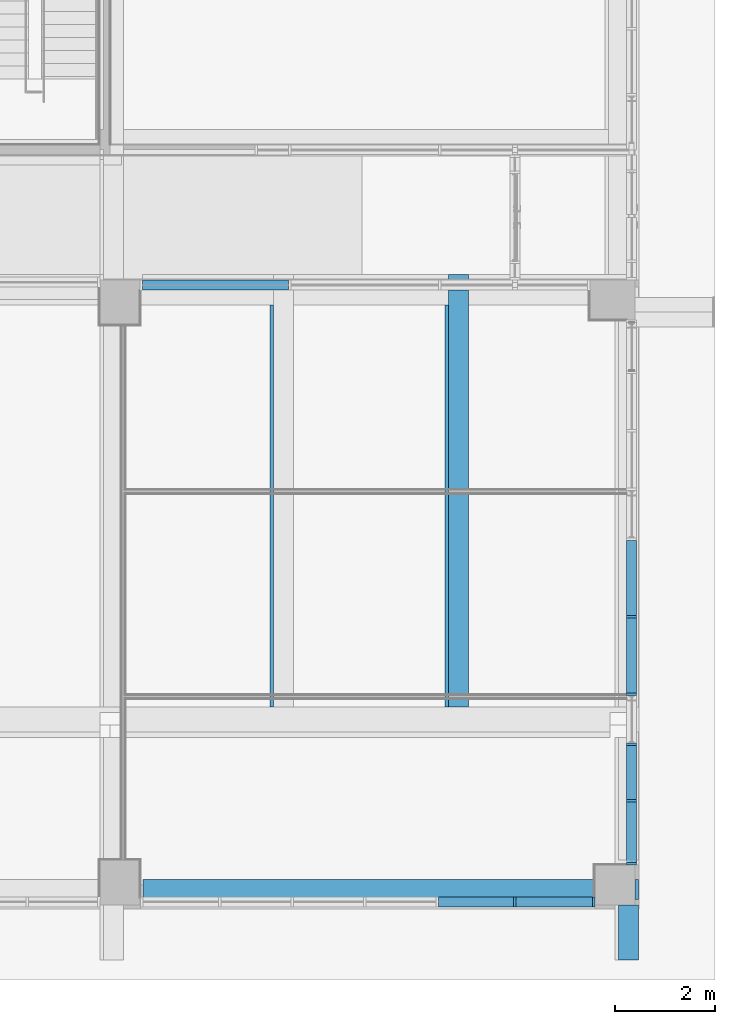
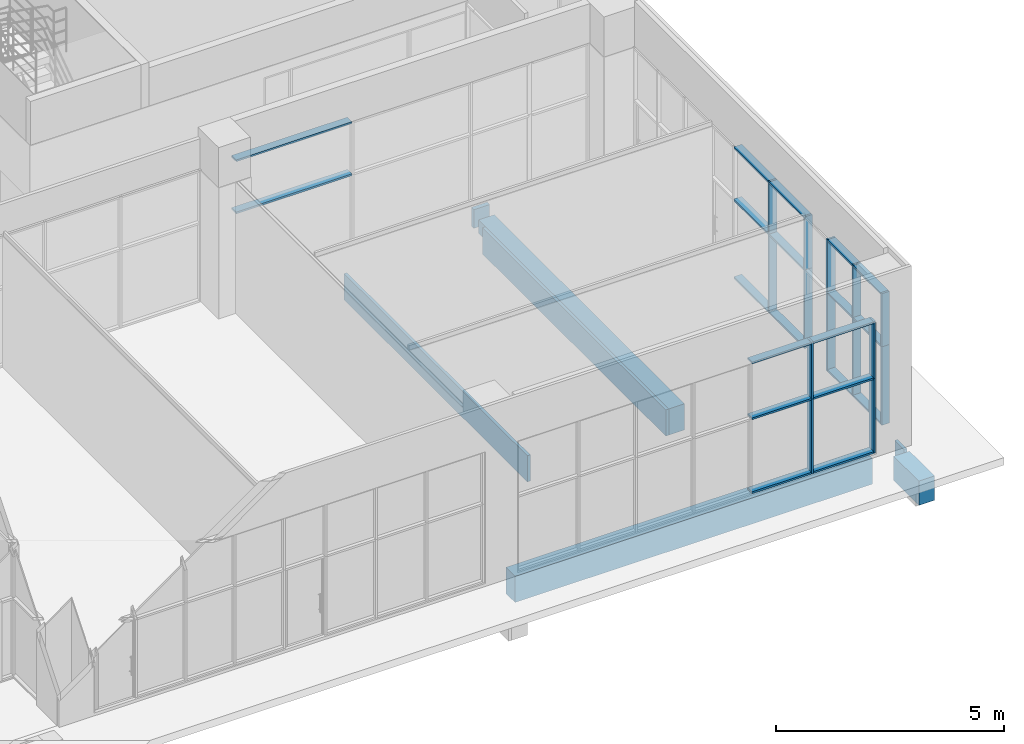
# One storey, part 11 of 100: 34 members, 5 beams, 3 elements without a shape of their own.
"""IFC2X3 building model written with IfcOpenShell, lengths in millimetres."""

from ifc_helpers import new_model, entity, si_unit, converted_unit, derived_unit, direction, frame, frame_2d, origin, origin_2d_with_axis, place, context, subcontext, project, spatial, polyline, rectangle, outline, extrude, source, transform, mapped, material, material_list, type_object, type_shapes, element, aggregate, save


model = new_model("IFC2X3")

# Units and contexts
model_context = context("Model", 3, precision=0.01, world=origin(), true_north=direction((6.123031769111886e-17, 1.0)))
body_context = subcontext(model_context, "Body", "Model", "MODEL_VIEW")
ifc_project = project(units=[si_unit("LENGTHUNIT", "METRE", prefix="MILLI"), si_unit("AREAUNIT", "SQUARE_METRE"), si_unit("VOLUMEUNIT", "CUBIC_METRE"), converted_unit("PLANEANGLEUNIT", "DEGREE", entity("IfcRatioMeasure", 0.017453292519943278), si_unit("PLANEANGLEUNIT", "RADIAN"), dimensions=[0, 0, 0, 0, 0, 0, 0]), si_unit("MASSUNIT", "GRAM", prefix="KILO"), derived_unit("MASSDENSITYUNIT", [(si_unit("MASSUNIT", "GRAM", prefix="KILO"), 1), (si_unit("LENGTHUNIT", "METRE"), -3)]), derived_unit("MOMENTOFINERTIAUNIT", [(si_unit("LENGTHUNIT", "METRE"), 4)]), si_unit("TIMEUNIT", "SECOND"), si_unit("FREQUENCYUNIT", "HERTZ"), si_unit("THERMODYNAMICTEMPERATUREUNIT", "DEGREE_CELSIUS"), derived_unit("THERMALTRANSMITTANCEUNIT", [(si_unit("MASSUNIT", "GRAM", prefix="KILO"), 1), (si_unit("THERMODYNAMICTEMPERATUREUNIT", "KELVIN"), -1), (si_unit("TIMEUNIT", "SECOND"), -3)]), derived_unit("VOLUMETRICFLOWRATEUNIT", [(si_unit("LENGTHUNIT", "METRE"), 3), (si_unit("TIMEUNIT", "SECOND"), -1)]), derived_unit("MASSFLOWRATEUNIT", [(si_unit("MASSUNIT", "GRAM", prefix="KILO"), 1), (si_unit("TIMEUNIT", "SECOND"), -1)]), derived_unit("ROTATIONALFREQUENCYUNIT", [(si_unit("TIMEUNIT", "SECOND"), -1)]), si_unit("ELECTRICCURRENTUNIT", "AMPERE"), si_unit("ELECTRICVOLTAGEUNIT", "VOLT"), si_unit("POWERUNIT", "WATT"), si_unit("FORCEUNIT", "NEWTON", prefix="KILO"), si_unit("ILLUMINANCEUNIT", "LUX"), si_unit("LUMINOUSFLUXUNIT", "LUMEN"), si_unit("LUMINOUSINTENSITYUNIT", "CANDELA"), derived_unit("USERDEFINED", [(si_unit("MASSUNIT", "GRAM", prefix="KILO"), -1), (si_unit("LENGTHUNIT", "METRE"), -2), (si_unit("TIMEUNIT", "SECOND"), 3), (si_unit("LUMINOUSFLUXUNIT", "LUMEN"), 1)]), derived_unit("SOUNDPOWERUNIT", [(si_unit("MASSUNIT", "GRAM", prefix="KILO"), 1), (si_unit("LENGTHUNIT", "METRE"), 2), (si_unit("TIMEUNIT", "SECOND"), -3)]), derived_unit("SOUNDPRESSUREUNIT", [(si_unit("MASSUNIT", "GRAM", prefix="KILO"), 1), (si_unit("LENGTHUNIT", "METRE"), -1), (si_unit("TIMEUNIT", "SECOND"), -2)]), derived_unit("LINEARVELOCITYUNIT", [(si_unit("LENGTHUNIT", "METRE"), 1), (si_unit("TIMEUNIT", "SECOND"), -1)]), si_unit("PRESSUREUNIT", "PASCAL"), derived_unit("USERDEFINED", [(si_unit("LENGTHUNIT", "METRE"), -2), (si_unit("MASSUNIT", "GRAM", prefix="KILO"), 1), (si_unit("TIMEUNIT", "SECOND"), -2)]), derived_unit("LINEARFORCEUNIT", [(si_unit("MASSUNIT", "GRAM", prefix="KILO"), 1), (si_unit("LENGTHUNIT", "METRE"), 1), (si_unit("TIMEUNIT", "SECOND"), -2), (si_unit("LENGTHUNIT", "METRE"), -1)]), derived_unit("PLANARFORCEUNIT", [(si_unit("MASSUNIT", "GRAM", prefix="KILO"), 1), (si_unit("LENGTHUNIT", "METRE"), 1), (si_unit("TIMEUNIT", "SECOND"), -2), (si_unit("LENGTHUNIT", "METRE"), -2)])], contexts=[model_context])

# Site, building, storey
site_placement = place(None, frame((-14167.972527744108, -657.2125860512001, 0.0)))
site = spatial("IfcSite", under=ifc_project, at=site_placement, Name="Default", CompositionType="ELEMENT")
building_placement = place(site_placement, origin())
building = spatial("IfcBuilding", under=site, at=building_placement, Name="Sample Building", CompositionType="ELEMENT")
storey_placement = place(building_placement, origin())
storey = spatial("IfcBuildingStorey", under=building, at=storey_placement, Name="지상 1층", CompositionType="ELEMENT", Elevation=0.0)

# Curtain wall, members
curtain_wall_type = type_object("IfcCurtainWallType", Name="커튼월:CW112-스테인리스 스틸 커튼월", PredefinedType="NOTDEFINED")
curtain_wall_1_placement = place(storey_placement, origin())
curtain_wall_1 = element("IfcCurtainWall", 1, at=curtain_wall_1_placement, inside=storey, type_object=curtain_wall_type, Name="커튼월:CW112-스테인리스 스틸 커튼월", ObjectType="커튼월:CW112-스테인리스 스틸 커튼월")
ifc_material_1 = material(Name="<Unnamed>")
member_type_1 = type_object("IfcMemberType", Name="직사각형 멀리언:CW200-직사각형 멀리언 50x200mm", PredefinedType="MULLION", material=ifc_material_1)
shared_shape_1 = source(origin(), body_context, "Body", "SweptSolid", [
    extrude(rectangle(XDim=200.0, YDim=50.0, at=origin_2d_with_axis()), frame((-25.0, 0.0, -1420.0), z_axis=(0.0, 0.0, 1.0), x_axis=(0.0, -1.0, 0.0)), (0.0, 0.0, 1.0), 1420.0000000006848),
])
type_shapes(member_type_1, [shared_shape_1])
member_1_placement = place(curtain_wall_1_placement, frame((51405.463828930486, 1357.1944693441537, 3600.0), z_axis=(0.0, 0.0, 1.0), x_axis=(0.0, -1.0, 0.0)))
member_1 = element("IfcMember", 2, at=member_1_placement, type_object=member_type_1, material=ifc_material_1, Name="직사각형 멀리언:CW200-직사각형 멀리언 50x200mm", ObjectType="직사각형 멀리언:CW200-직사각형 멀리언 50x200mm", context=body_context, shape_type="MappedRepresentation", body=[
    mapped(shared_shape_1, transform((0.0, 0.0, 0.0), scale=1.0)),
])
member_type_2 = type_object("IfcMemberType", Name="직사각형 멀리언:CW200-직사각형 멀리언 50x200mm", PredefinedType="MULLION", material=ifc_material_1)
shared_shape_2 = source(origin(), body_context, "Body", "SweptSolid", [
    extrude(rectangle(XDim=200.0, YDim=50.0, at=origin_2d_with_axis()), frame((0.0, 0.0, -2100.0), z_axis=(0.0, 0.0, 1.0), x_axis=(0.0, -1.0, 0.0)), (0.0, 0.0, 1.0), 2100.0),
])
type_shapes(member_type_2, [shared_shape_2])
member_2_placement = place(curtain_wall_1_placement, frame((51405.463828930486, 2637.1776243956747, 80.0), z_axis=(0.0, 0.0, -1.0), x_axis=(0.0, 1.0, 0.0)))
member_2 = element("IfcMember", 3, at=member_2_placement, type_object=member_type_2, material=ifc_material_1, Name="직사각형 멀리언:CW200-직사각형 멀리언 50x200mm", ObjectType="직사각형 멀리언:CW200-직사각형 멀리언 50x200mm", context=body_context, shape_type="MappedRepresentation", body=[
    mapped(shared_shape_2, transform((0.0, 0.0, 0.0), scale=1.0)),
])
member_3_placement = place(curtain_wall_1_placement, frame((51405.463828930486, 3767.1776243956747, 80.0), z_axis=(0.0, 0.0, -1.0), x_axis=(0.0, 1.0, 0.0)))
member_3 = element("IfcMember", 4, at=member_3_placement, type_object=member_type_2, material=ifc_material_1, Name="직사각형 멀리언:CW200-직사각형 멀리언 50x200mm", ObjectType="직사각형 멀리언:CW200-직사각형 멀리언 50x200mm", context=body_context, shape_type="MappedRepresentation", body=[
    mapped(shared_shape_2, transform((0.0, 0.0, 0.0), scale=1.0)),
])
member_4_placement = place(curtain_wall_1_placement, frame((51405.46382893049, 4767.177624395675, 80.0), z_axis=(0.0, 0.0, -1.0), x_axis=(0.0, 1.0, 0.0)))
member_4 = element("IfcMember", 5, at=member_4_placement, type_object=member_type_2, material=ifc_material_1, Name="직사각형 멀리언:CW200-직사각형 멀리언 50x200mm", ObjectType="직사각형 멀리언:CW200-직사각형 멀리언 50x200mm", context=body_context, shape_type="MappedRepresentation", body=[
    mapped(shared_shape_2, transform((0.0, 0.0, 0.0), scale=1.0)),
])
member_5_placement = place(curtain_wall_1_placement, frame((51405.46382893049, 6317.177624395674, 80.0), z_axis=(0.0, 0.0, -1.0), x_axis=(0.0, 1.0, 0.0)))
member_5 = element("IfcMember", 6, at=member_5_placement, type_object=member_type_2, material=ifc_material_1, Name="직사각형 멀리언:CW200-직사각형 멀리언 50x200mm", ObjectType="직사각형 멀리언:CW200-직사각형 멀리언 50x200mm", context=body_context, shape_type="MappedRepresentation", body=[
    mapped(shared_shape_2, transform((0.0, 0.0, 0.0), scale=1.0)),
])
member_type_3 = type_object("IfcMemberType", Name="직사각형 멀리언:CW200-직사각형 멀리언 50x200mm", PredefinedType="MULLION", material=ifc_material_1)
shared_shape_3 = source(origin(), body_context, "Body", "SweptSolid", [
    extrude(rectangle(XDim=200.0, YDim=50.0, at=origin_2d_with_axis()), frame((-25.0, 0.0, -2100.0), z_axis=(0.0, 0.0, 1.0), x_axis=(0.0, -1.0, 0.0)), (0.0, 0.0, 1.0), 2099.9999999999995),
])
type_shapes(member_type_3, [shared_shape_3])
member_6_placement = place(curtain_wall_1_placement, frame((51405.463828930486, 1357.1944693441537, 2180.0), z_axis=(0.0, 0.0, 1.0), x_axis=(0.0, -1.0, 0.0)))
member_6 = element("IfcMember", 7, at=member_6_placement, type_object=member_type_3, material=ifc_material_1, Name="직사각형 멀리언:CW200-직사각형 멀리언 50x200mm", ObjectType="직사각형 멀리언:CW200-직사각형 멀리언 50x200mm", context=body_context, shape_type="MappedRepresentation", body=[
    mapped(shared_shape_3, transform((0.0, 0.0, 0.0), scale=1.0)),
])
member_type_4 = type_object("IfcMemberType", Name="직사각형 멀리언:CW200-직사각형 멀리언 50x200mm", PredefinedType="MULLION", material=ifc_material_1)
shared_shape_4 = source(origin(), body_context, "Body", "SweptSolid", [
    extrude(rectangle(XDim=200.0, YDim=50.0, at=origin_2d_with_axis()), frame((0.0, 0.0, -1420.0), z_axis=(0.0, 0.0, 1.0), x_axis=(0.0, -1.0, 0.0)), (0.0, 0.0, 1.0), 1420.0000000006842),
])
type_shapes(member_type_4, [shared_shape_4])
member_7_placement = place(curtain_wall_1_placement, frame((51405.463828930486, 2637.1776243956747, 2180.0), z_axis=(0.0, 0.0, -1.0), x_axis=(0.0, 1.0, 0.0)))
member_7 = element("IfcMember", 8, at=member_7_placement, type_object=member_type_4, material=ifc_material_1, Name="직사각형 멀리언:CW200-직사각형 멀리언 50x200mm", ObjectType="직사각형 멀리언:CW200-직사각형 멀리언 50x200mm", context=body_context, shape_type="MappedRepresentation", body=[
    mapped(shared_shape_4, transform((0.0, 0.0, 0.0), scale=1.0)),
])
member_8_placement = place(curtain_wall_1_placement, frame((51405.463828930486, 3767.1776243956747, 2180.0), z_axis=(0.0, 0.0, -1.0), x_axis=(0.0, 1.0, 0.0)))
member_8 = element("IfcMember", 9, at=member_8_placement, type_object=member_type_4, material=ifc_material_1, Name="직사각형 멀리언:CW200-직사각형 멀리언 50x200mm", ObjectType="직사각형 멀리언:CW200-직사각형 멀리언 50x200mm", context=body_context, shape_type="MappedRepresentation", body=[
    mapped(shared_shape_4, transform((0.0, 0.0, 0.0), scale=1.0)),
])
member_9_placement = place(curtain_wall_1_placement, frame((51405.46382893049, 4767.177624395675, 2180.0), z_axis=(0.0, 0.0, -1.0), x_axis=(0.0, 1.0, 0.0)))
member_9 = element("IfcMember", 10, at=member_9_placement, type_object=member_type_4, material=ifc_material_1, Name="직사각형 멀리언:CW200-직사각형 멀리언 50x200mm", ObjectType="직사각형 멀리언:CW200-직사각형 멀리언 50x200mm", context=body_context, shape_type="MappedRepresentation", body=[
    mapped(shared_shape_4, transform((0.0, 0.0, 0.0), scale=1.0)),
])
member_10_placement = place(curtain_wall_1_placement, frame((51405.46382893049, 6317.177624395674, 2180.0), z_axis=(0.0, 0.0, -1.0), x_axis=(0.0, 1.0, 0.0)))
member_10 = element("IfcMember", 11, at=member_10_placement, type_object=member_type_4, material=ifc_material_1, Name="직사각형 멀리언:CW200-직사각형 멀리언 50x200mm", ObjectType="직사각형 멀리언:CW200-직사각형 멀리언 50x200mm", context=body_context, shape_type="MappedRepresentation", body=[
    mapped(shared_shape_4, transform((0.0, 0.0, 0.0), scale=1.0)),
])

# Curtain wall, member
curtain_wall_2_placement = place(storey_placement, origin())
curtain_wall_2 = element("IfcCurtainWall", 12, at=curtain_wall_2_placement, inside=storey, type_object=curtain_wall_type, Name="커튼월:CW112-스테인리스 스틸 커튼월", ObjectType="커튼월:CW112-스테인리스 스틸 커튼월")
member_type_5 = type_object("IfcMemberType", Name="직사각형 멀리언:CW200-직사각형 멀리언 50x200mm", PredefinedType="MULLION", material=ifc_material_1)
shared_shape_5 = source(origin(), body_context, "Body", "SweptSolid", [
    extrude(rectangle(XDim=200.0, YDim=50.0, at=origin_2d_with_axis()), frame((-25.0, 0.0, -1500.0), z_axis=(0.0, 0.0, 1.0), x_axis=(0.0, -1.0, 0.0)), (0.0, 0.0, 1.0), 1500.0000000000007),
])
type_shapes(member_type_5, [shared_shape_5])
member_11_placement = place(curtain_wall_2_placement, frame((47543.32629889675, 619.7122951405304, 80.0), z_axis=(-1.0, 0.0, 0.0), x_axis=(0.0, 0.0, -1.0)))
member_11 = element("IfcMember", 13, at=member_11_placement, type_object=member_type_5, material=ifc_material_1, Name="직사각형 멀리언:CW200-직사각형 멀리언 50x200mm", ObjectType="직사각형 멀리언:CW200-직사각형 멀리언 50x200mm", context=body_context, shape_type="MappedRepresentation", body=[
    mapped(shared_shape_5, transform((0.0, 0.0, 0.0), scale=1.0)),
])

# Member
member_12_placement = place(curtain_wall_1_placement, frame((51405.46382893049, 4792.177624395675, 80.0), z_axis=(0.0, -1.0, 0.0), x_axis=(0.0, 0.0, -1.0)))
member_12 = element("IfcMember", 14, at=member_12_placement, type_object=member_type_5, material=ifc_material_1, Name="직사각형 멀리언:CW200-직사각형 멀리언 50x200mm", ObjectType="직사각형 멀리언:CW200-직사각형 멀리언 50x200mm", context=body_context, shape_type="MappedRepresentation", body=[
    mapped(shared_shape_5, transform((0.0, 0.0, 0.0), scale=1.0)),
])

member_13_placement = place(curtain_wall_1_placement, frame((51405.46382893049, 6342.177624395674, 80.0), z_axis=(0.0, -1.0, 0.0), x_axis=(0.0, 0.0, -1.0)))
member_13 = element("IfcMember", 15, at=member_13_placement, type_object=member_type_5, material=ifc_material_1, Name="직사각형 멀리언:CW200-직사각형 멀리언 50x200mm", ObjectType="직사각형 멀리언:CW200-직사각형 멀리언 50x200mm", context=body_context, shape_type="MappedRepresentation", body=[
    mapped(shared_shape_5, transform((0.0, 0.0, 0.0), scale=1.0)),
])

member_type_6 = type_object("IfcMemberType", Name="직사각형 멀리언:CW200-직사각형 멀리언 50x200mm", PredefinedType="MULLION", material=ifc_material_1)
shared_shape_6 = source(origin(), body_context, "Body", "SweptSolid", [
    extrude(rectangle(XDim=200.0, YDim=50.0, at=origin_2d_with_axis()), frame((-25.0, 0.0, -1500.0), z_axis=(0.0, 0.0, 1.0), x_axis=(0.0, -1.0, 0.0)), (0.0, 0.0, 1.0), 1500.0000000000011),
])
type_shapes(member_type_6, [shared_shape_6])
member_14_placement = place(curtain_wall_2_placement, frame((49043.32629889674, 619.7122951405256, 3600.0), z_axis=(1.0, 0.0, 0.0), x_axis=(0.0, 0.0, 1.0)))
member_14 = element("IfcMember", 16, at=member_14_placement, type_object=member_type_6, material=ifc_material_1, Name="직사각형 멀리언:CW200-직사각형 멀리언 50x200mm", ObjectType="직사각형 멀리언:CW200-직사각형 멀리언 50x200mm", context=body_context, shape_type="MappedRepresentation", body=[
    mapped(shared_shape_6, transform((0.0, 0.0, 0.0), scale=1.0)),
])

member_15_placement = place(curtain_wall_1_placement, frame((51405.46382893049, 6292.177624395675, 3600.0), z_axis=(0.0, 1.0, 0.0), x_axis=(0.0, 0.0, 1.0)))
member_15 = element("IfcMember", 17, at=member_15_placement, type_object=member_type_6, material=ifc_material_1, Name="직사각형 멀리언:CW200-직사각형 멀리언 50x200mm", ObjectType="직사각형 멀리언:CW200-직사각형 멀리언 50x200mm", context=body_context, shape_type="MappedRepresentation", body=[
    mapped(shared_shape_6, transform((0.0, 0.0, 0.0), scale=1.0)),
])

member_16_placement = place(curtain_wall_1_placement, frame((51405.46382893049, 7842.177624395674, 3600.0), z_axis=(0.0, 1.0, 0.0), x_axis=(0.0, 0.0, 1.0)))
member_16 = element("IfcMember", 18, at=member_16_placement, type_object=member_type_6, material=ifc_material_1, Name="직사각형 멀리언:CW200-직사각형 멀리언 50x200mm", ObjectType="직사각형 멀리언:CW200-직사각형 멀리언 50x200mm", context=body_context, shape_type="MappedRepresentation", body=[
    mapped(shared_shape_6, transform((0.0, 0.0, 0.0), scale=1.0)),
])

member_type_7 = type_object("IfcMemberType", Name="직사각형 멀리언:CW200-직사각형 멀리언 50x200mm", PredefinedType="MULLION", material=ifc_material_1)
shared_shape_7 = source(origin(), body_context, "Body", "SweptSolid", [
    extrude(rectangle(XDim=200.0, YDim=50.0, at=origin_2d_with_axis()), frame((0.0, 0.0, -1500.0), z_axis=(0.0, 0.0, 1.0), x_axis=(0.0, -1.0, 0.0)), (0.0, 0.0, 1.0), 1500.0000000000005),
])
type_shapes(member_type_7, [shared_shape_7])
member_17_placement = place(curtain_wall_2_placement, frame((49043.32629889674, 619.7122951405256, 2080.0), z_axis=(1.0, 0.0, 0.0), x_axis=(0.0, 0.0, 1.0)))
member_17 = element("IfcMember", 19, at=member_17_placement, type_object=member_type_7, material=ifc_material_1, Name="직사각형 멀리언:CW200-직사각형 멀리언 50x200mm", ObjectType="직사각형 멀리언:CW200-직사각형 멀리언 50x200mm", context=body_context, shape_type="MappedRepresentation", body=[
    mapped(shared_shape_7, transform((0.0, 0.0, 0.0), scale=1.0)),
])

member_18_placement = place(curtain_wall_1_placement, frame((51405.46382893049, 6292.177624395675, 2180.0), z_axis=(0.0, 1.0, 0.0), x_axis=(0.0, 0.0, 1.0)))
member_18 = element("IfcMember", 20, at=member_18_placement, type_object=member_type_7, material=ifc_material_1, Name="직사각형 멀리언:CW200-직사각형 멀리언 50x200mm", ObjectType="직사각형 멀리언:CW200-직사각형 멀리언 50x200mm", context=body_context, shape_type="MappedRepresentation", body=[
    mapped(shared_shape_7, transform((0.0, 0.0, 0.0), scale=1.0)),
])

member_19_placement = place(curtain_wall_1_placement, frame((51405.46382893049, 7842.177624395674, 2180.0), z_axis=(0.0, 1.0, 0.0), x_axis=(0.0, 0.0, 1.0)))
member_19 = element("IfcMember", 21, at=member_19_placement, type_object=member_type_7, material=ifc_material_1, Name="직사각형 멀리언:CW200-직사각형 멀리언 50x200mm", ObjectType="직사각형 멀리언:CW200-직사각형 멀리언 50x200mm", context=body_context, shape_type="MappedRepresentation", body=[
    mapped(shared_shape_7, transform((0.0, 0.0, 0.0), scale=1.0)),
])

member_type_8 = type_object("IfcMemberType", Name="직사각형 멀리언:CW200-직사각형 멀리언 50x200mm", PredefinedType="MULLION", material=ifc_material_1)
shared_shape_8 = source(origin(), body_context, "Body", "SweptSolid", [
    extrude(rectangle(XDim=200.0, YDim=50.0, at=origin_2d_with_axis()), frame((-25.0, 0.0, -2000.0), z_axis=(0.0, 0.0, 1.0), x_axis=(0.0, -1.0, 0.0)), (0.0, 0.0, 1.0), 1999.9999999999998),
])
type_shapes(member_type_8, [shared_shape_8])
member_20_placement = place(curtain_wall_2_placement, frame((50667.97248530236, 619.7122951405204, 80.0), z_axis=(0.0, 0.0, -1.0), x_axis=(1.0, 0.0, 0.0)))
member_20 = element("IfcMember", 22, at=member_20_placement, type_object=member_type_8, material=ifc_material_1, Name="직사각형 멀리언:CW200-직사각형 멀리언 50x200mm", ObjectType="직사각형 멀리언:CW200-직사각형 멀리언 50x200mm", context=body_context, shape_type="MappedRepresentation", body=[
    mapped(shared_shape_8, transform((0.0, 0.0, 0.0), scale=1.0)),
])

member_type_9 = type_object("IfcMemberType", Name="직사각형 멀리언:CW200-직사각형 멀리언 50x200mm", PredefinedType="MULLION", material=ifc_material_1)
shared_shape_9 = source(origin(), body_context, "Body", "SweptSolid", [
    extrude(rectangle(XDim=200.0, YDim=50.0, at=origin_2d_with_axis()), frame((0.0, 0.0, -2000.0), z_axis=(0.0, 0.0, 1.0), x_axis=(0.0, -1.0, 0.0)), (0.0, 0.0, 1.0), 2000.0000000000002),
])
type_shapes(member_type_9, [shared_shape_9])
member_21_placement = place(curtain_wall_2_placement, frame((49068.32629889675, 619.7122951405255, 80.0), z_axis=(0.0, 0.0, -1.0), x_axis=(1.0, 0.0, 0.0)))
member_21 = element("IfcMember", 23, at=member_21_placement, type_object=member_type_9, material=ifc_material_1, Name="직사각형 멀리언:CW200-직사각형 멀리언 50x200mm", ObjectType="직사각형 멀리언:CW200-직사각형 멀리언 50x200mm", context=body_context, shape_type="MappedRepresentation", body=[
    mapped(shared_shape_9, transform((0.0, 0.0, 0.0), scale=1.0)),
])

member_type_10 = type_object("IfcMemberType", Name="직사각형 멀리언:CW200-직사각형 멀리언 50x200mm", PredefinedType="MULLION", material=ifc_material_1)
shared_shape_10 = source(origin(), body_context, "Body", "SweptSolid", [
    extrude(rectangle(XDim=200.0, YDim=50.0, at=origin_2d_with_axis()), frame((-25.0, 0.0, -1520.0), z_axis=(0.0, 0.0, 1.0), x_axis=(0.0, -1.0, 0.0)), (0.0, 0.0, 1.0), 1520.0000000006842),
])
type_shapes(member_type_10, [shared_shape_10])
member_22_placement = place(curtain_wall_2_placement, frame((50667.97248530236, 619.7122951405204, 2080.0), z_axis=(0.0, 0.0, -1.0), x_axis=(1.0, 0.0, 0.0)))
member_22 = element("IfcMember", 24, at=member_22_placement, type_object=member_type_10, material=ifc_material_1, Name="직사각형 멀리언:CW200-직사각형 멀리언 50x200mm", ObjectType="직사각형 멀리언:CW200-직사각형 멀리언 50x200mm", context=body_context, shape_type="MappedRepresentation", body=[
    mapped(shared_shape_10, transform((0.0, 0.0, 0.0), scale=1.0)),
])

member_type_11 = type_object("IfcMemberType", Name="직사각형 멀리언:CW200-직사각형 멀리언 50x200mm", PredefinedType="MULLION", material=ifc_material_1)
shared_shape_11 = source(origin(), body_context, "Body", "SweptSolid", [
    extrude(rectangle(XDim=200.0, YDim=50.0, at=origin_2d_with_axis()), frame((0.0, 0.0, -1520.0), z_axis=(0.0, 0.0, 1.0), x_axis=(0.0, -1.0, 0.0)), (0.0, 0.0, 1.0), 1520.0000000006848),
])
type_shapes(member_type_11, [shared_shape_11])
member_23_placement = place(curtain_wall_2_placement, frame((49068.32629889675, 619.7122951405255, 2080.0), z_axis=(0.0, 0.0, -1.0), x_axis=(1.0, 0.0, 0.0)))
member_23 = element("IfcMember", 25, at=member_23_placement, type_object=member_type_11, material=ifc_material_1, Name="직사각형 멀리언:CW200-직사각형 멀리언 50x200mm", ObjectType="직사각형 멀리언:CW200-직사각형 멀리언 50x200mm", context=body_context, shape_type="MappedRepresentation", body=[
    mapped(shared_shape_11, transform((0.0, 0.0, 0.0), scale=1.0)),
])

member_type_12 = type_object("IfcMemberType", Name="직사각형 멀리언:CW200-직사각형 멀리언 50x200mm", PredefinedType="MULLION", material=ifc_material_1)
shared_shape_12 = source(origin(), body_context, "Body", "SweptSolid", [
    extrude(rectangle(XDim=200.0, YDim=50.0, at=origin_2d_with_axis()), frame((-25.0, 0.0, -1524.646186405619), z_axis=(0.0, 0.0, 1.0), x_axis=(0.0, -1.0, 0.0)), (0.0, 0.0, 1.0), 1524.6461864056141),
])
type_shapes(member_type_12, [shared_shape_12])
member_24_placement = place(curtain_wall_2_placement, frame((50617.97248530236, 619.7122951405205, 3600.0), z_axis=(1.0, 0.0, 0.0), x_axis=(0.0, 0.0, 1.0)))
member_24 = element("IfcMember", 26, at=member_24_placement, type_object=member_type_12, material=ifc_material_1, Name="직사각형 멀리언:CW200-직사각형 멀리언 50x200mm", ObjectType="직사각형 멀리언:CW200-직사각형 멀리언 50x200mm", context=body_context, shape_type="MappedRepresentation", body=[
    mapped(shared_shape_12, transform((0.0, 0.0, 0.0), scale=1.0)),
])

member_type_13 = type_object("IfcMemberType", Name="직사각형 멀리언:CW200-직사각형 멀리언 50x200mm", PredefinedType="MULLION", material=ifc_material_1)
shared_shape_13 = source(origin(), body_context, "Body", "SweptSolid", [
    extrude(rectangle(XDim=200.0, YDim=50.0, at=origin_2d_with_axis()), frame((-25.0, 0.0, -1524.6461864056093), z_axis=(0.0, 0.0, 1.0), x_axis=(0.0, -1.0, 0.0)), (0.0, 0.0, 1.0), 1524.6461864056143),
])
type_shapes(member_type_13, [shared_shape_13])
member_25_placement = place(curtain_wall_2_placement, frame((49093.32629889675, 619.7122951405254, 80.0), z_axis=(-1.0, 0.0, 0.0), x_axis=(0.0, 0.0, -1.0)))
member_25 = element("IfcMember", 27, at=member_25_placement, type_object=member_type_13, material=ifc_material_1, Name="직사각형 멀리언:CW200-직사각형 멀리언 50x200mm", ObjectType="직사각형 멀리언:CW200-직사각형 멀리언 50x200mm", context=body_context, shape_type="MappedRepresentation", body=[
    mapped(shared_shape_13, transform((0.0, 0.0, 0.0), scale=1.0)),
])

member_type_14 = type_object("IfcMemberType", Name="직사각형 멀리언:CW200-직사각형 멀리언 50x200mm", PredefinedType="MULLION", material=ifc_material_1)
shared_shape_14 = source(origin(), body_context, "Body", "SweptSolid", [
    extrude(rectangle(XDim=200.0, YDim=50.0, at=origin_2d_with_axis()), frame((0.0, 0.0, -1524.646186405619), z_axis=(0.0, 0.0, 1.0), x_axis=(0.0, -1.0, 0.0)), (0.0, 0.0, 1.0), 1524.6461864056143),
])
type_shapes(member_type_14, [shared_shape_14])
member_26_placement = place(curtain_wall_2_placement, frame((50617.97248530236, 619.7122951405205, 2080.0), z_axis=(1.0, 0.0, 0.0), x_axis=(0.0, 0.0, 1.0)))
member_26 = element("IfcMember", 28, at=member_26_placement, type_object=member_type_14, material=ifc_material_1, Name="직사각형 멀리언:CW200-직사각형 멀리언 50x200mm", ObjectType="직사각형 멀리언:CW200-직사각형 멀리언 50x200mm", context=body_context, shape_type="MappedRepresentation", body=[
    mapped(shared_shape_14, transform((0.0, 0.0, 0.0), scale=1.0)),
])

aggregate(curtain_wall_2, [member_24, member_20, member_22, member_11, member_17, member_14, member_25, member_26, member_21, member_23])

member_type_15 = type_object("IfcMemberType", Name="직사각형 멀리언:CW200-직사각형 멀리언 50x200mm", PredefinedType="MULLION", material=ifc_material_1)
shared_shape_15 = source(origin(), body_context, "Body", "SweptSolid", [
    extrude(rectangle(XDim=200.0, YDim=50.0, at=origin_2d_with_axis()), frame((-25.0, 0.0, -1204.983155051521), z_axis=(0.0, 0.0, 1.0), x_axis=(0.0, -1.0, 0.0)), (0.0, 0.0, 1.0), 1204.983155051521),
])
type_shapes(member_type_15, [shared_shape_15])
member_27_placement = place(curtain_wall_1_placement, frame((51405.463828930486, 1407.1944693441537, 80.0), z_axis=(0.0, -1.0, 0.0), x_axis=(0.0, 0.0, -1.0)))
member_27 = element("IfcMember", 29, at=member_27_placement, type_object=member_type_15, material=ifc_material_1, Name="직사각형 멀리언:CW200-직사각형 멀리언 50x200mm", ObjectType="직사각형 멀리언:CW200-직사각형 멀리언 50x200mm", context=body_context, shape_type="MappedRepresentation", body=[
    mapped(shared_shape_15, transform((0.0, 0.0, 0.0), scale=1.0)),
])

member_type_16 = type_object("IfcMemberType", Name="직사각형 멀리언:CW200-직사각형 멀리언 50x200mm", PredefinedType="MULLION", material=ifc_material_1)
shared_shape_16 = source(origin(), body_context, "Body", "SweptSolid", [
    extrude(rectangle(XDim=200.0, YDim=50.0, at=origin_2d_with_axis()), frame((-25.0, 0.0, -1204.9831550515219), z_axis=(0.0, 0.0, 1.0), x_axis=(0.0, -1.0, 0.0)), (0.0, 0.0, 1.0), 1204.9831550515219),
])
type_shapes(member_type_16, [shared_shape_16])
member_28_placement = place(curtain_wall_1_placement, frame((51405.463828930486, 2612.177624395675, 3600.0), z_axis=(0.0, 1.0, 0.0), x_axis=(0.0, 0.0, 1.0)))
member_28 = element("IfcMember", 30, at=member_28_placement, type_object=member_type_16, material=ifc_material_1, Name="직사각형 멀리언:CW200-직사각형 멀리언 50x200mm", ObjectType="직사각형 멀리언:CW200-직사각형 멀리언 50x200mm", context=body_context, shape_type="MappedRepresentation", body=[
    mapped(shared_shape_16, transform((0.0, 0.0, 0.0), scale=1.0)),
])

member_type_17 = type_object("IfcMemberType", Name="직사각형 멀리언:CW200-직사각형 멀리언 50x200mm", PredefinedType="MULLION", material=ifc_material_1)
shared_shape_17 = source(origin(), body_context, "Body", "SweptSolid", [
    extrude(rectangle(XDim=200.0, YDim=50.0, at=origin_2d_with_axis()), frame((-25.0, 0.0, -1080.0), z_axis=(0.0, 0.0, 1.0), x_axis=(0.0, -1.0, 0.0)), (0.0, 0.0, 1.0), 1079.9999999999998),
])
type_shapes(member_type_17, [shared_shape_17])
member_29_placement = place(curtain_wall_1_placement, frame((51405.463828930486, 2662.1776243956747, 80.0), z_axis=(0.0, -1.0, 0.0), x_axis=(0.0, 0.0, -1.0)))
member_29 = element("IfcMember", 31, at=member_29_placement, type_object=member_type_17, material=ifc_material_1, Name="직사각형 멀리언:CW200-직사각형 멀리언 50x200mm", ObjectType="직사각형 멀리언:CW200-직사각형 멀리언 50x200mm", context=body_context, shape_type="MappedRepresentation", body=[
    mapped(shared_shape_17, transform((0.0, 0.0, 0.0), scale=1.0)),
])

member_type_18 = type_object("IfcMemberType", Name="직사각형 멀리언:CW200-직사각형 멀리언 50x200mm", PredefinedType="MULLION", material=ifc_material_1)
shared_shape_18 = source(origin(), body_context, "Body", "SweptSolid", [
    extrude(rectangle(XDim=200.0, YDim=50.0, at=origin_2d_with_axis()), frame((-25.0, 0.0, -1080.0), z_axis=(0.0, 0.0, 1.0), x_axis=(0.0, -1.0, 0.0)), (0.0, 0.0, 1.0), 1080.0000000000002),
])
type_shapes(member_type_18, [shared_shape_18])
member_30_placement = place(curtain_wall_1_placement, frame((51405.463828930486, 3742.1776243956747, 3600.0), z_axis=(0.0, 1.0, 0.0), x_axis=(0.0, 0.0, 1.0)))
member_30 = element("IfcMember", 32, at=member_30_placement, type_object=member_type_18, material=ifc_material_1, Name="직사각형 멀리언:CW200-직사각형 멀리언 50x200mm", ObjectType="직사각형 멀리언:CW200-직사각형 멀리언 50x200mm", context=body_context, shape_type="MappedRepresentation", body=[
    mapped(shared_shape_18, transform((0.0, 0.0, 0.0), scale=1.0)),
])

member_type_19 = type_object("IfcMemberType", Name="직사각형 멀리언:CW200-직사각형 멀리언 50x200mm", PredefinedType="MULLION", material=ifc_material_1)
shared_shape_19 = source(origin(), body_context, "Body", "SweptSolid", [
    extrude(rectangle(XDim=200.0, YDim=50.0, at=origin_2d_with_axis()), frame((0.0, 0.0, -1204.9831550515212), z_axis=(0.0, 0.0, 1.0), x_axis=(0.0, -1.0, 0.0)), (0.0, 0.0, 1.0), 1204.9831550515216),
])
type_shapes(member_type_19, [shared_shape_19])
member_31_placement = place(curtain_wall_1_placement, frame((51405.463828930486, 2612.177624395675, 2180.0), z_axis=(0.0, 1.0, 0.0), x_axis=(0.0, 0.0, 1.0)))
member_31 = element("IfcMember", 33, at=member_31_placement, type_object=member_type_19, material=ifc_material_1, Name="직사각형 멀리언:CW200-직사각형 멀리언 50x200mm", ObjectType="직사각형 멀리언:CW200-직사각형 멀리언 50x200mm", context=body_context, shape_type="MappedRepresentation", body=[
    mapped(shared_shape_19, transform((0.0, 0.0, 0.0), scale=1.0)),
])

member_type_20 = type_object("IfcMemberType", Name="직사각형 멀리언:CW200-직사각형 멀리언 50x200mm", PredefinedType="MULLION", material=ifc_material_1)
shared_shape_20 = source(origin(), body_context, "Body", "SweptSolid", [
    extrude(rectangle(XDim=200.0, YDim=50.0, at=origin_2d_with_axis()), frame((0.0, 0.0, -1080.0), z_axis=(0.0, 0.0, 1.0), x_axis=(0.0, -1.0, 0.0)), (0.0, 0.0, 1.0), 1079.9999999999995),
])
type_shapes(member_type_20, [shared_shape_20])
member_32_placement = place(curtain_wall_1_placement, frame((51405.463828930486, 3742.1776243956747, 2180.0), z_axis=(0.0, 1.0, 0.0), x_axis=(0.0, 0.0, 1.0)))
member_32 = element("IfcMember", 34, at=member_32_placement, type_object=member_type_20, material=ifc_material_1, Name="직사각형 멀리언:CW200-직사각형 멀리언 50x200mm", ObjectType="직사각형 멀리언:CW200-직사각형 멀리언 50x200mm", context=body_context, shape_type="MappedRepresentation", body=[
    mapped(shared_shape_20, transform((0.0, 0.0, 0.0), scale=1.0)),
])

aggregate(curtain_wall_1, [member_27, member_1, member_28, member_29, member_2, member_30, member_3, member_12, member_4, member_15, member_13, member_5, member_16, member_6, member_31, member_32, member_18, member_19, member_7, member_8, member_9, member_10])

# Curtain wall, members
curtain_wall_3_placement = place(storey_placement, origin())
curtain_wall_3 = element("IfcCurtainWall", 35, at=curtain_wall_3_placement, inside=storey, type_object=curtain_wall_type, Name="커튼월:CW112-스테인리스 스틸 커튼월", ObjectType="커튼월:CW112-스테인리스 스틸 커튼월")
member_type_21 = type_object("IfcMemberType", Name="직사각형 멀리언:CW200-직사각형 멀리언 50x200mm", PredefinedType="MULLION", material=ifc_material_1)
shared_shape_21 = source(origin(), body_context, "Body", "SweptSolid", [
    extrude(rectangle(XDim=200.0, YDim=50.0, at=origin_2d_with_axis()), frame((-25.0, 0.0, -2925.0), z_axis=(0.0, 0.0, 1.0), x_axis=(0.0, -1.0, 0.0)), (0.0, 0.0, 1.0), 2925.000000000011),
])
type_shapes(member_type_21, [shared_shape_21])
member_33_placement = place(curtain_wall_3_placement, frame((41617.97249113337, 12957.212383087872, 3600.0), z_axis=(-1.0, 0.0, 0.0), x_axis=(0.0, 0.0, 1.0)))
member_33 = element("IfcMember", 36, at=member_33_placement, type_object=member_type_21, material=ifc_material_1, Name="직사각형 멀리언:CW200-직사각형 멀리언 50x200mm", ObjectType="직사각형 멀리언:CW200-직사각형 멀리언 50x200mm", context=body_context, shape_type="MappedRepresentation", body=[
    mapped(shared_shape_21, transform((0.0, 0.0, 0.0), scale=1.0)),
])
member_type_22 = type_object("IfcMemberType", Name="직사각형 멀리언:CW200-직사각형 멀리언 50x200mm", PredefinedType="MULLION", material=ifc_material_1)
shared_shape_22 = source(origin(), body_context, "Body", "SweptSolid", [
    extrude(rectangle(XDim=200.0, YDim=50.0, at=origin_2d_with_axis()), frame((0.0, 0.0, -2925.0), z_axis=(0.0, 0.0, 1.0), x_axis=(0.0, -1.0, 0.0)), (0.0, 0.0, 1.0), 2925.000000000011),
])
type_shapes(member_type_22, [shared_shape_22])
member_34_placement = place(curtain_wall_3_placement, frame((41617.97249113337, 12957.212383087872, 2180.0), z_axis=(-1.0, 0.0, 0.0), x_axis=(0.0, 0.0, 1.0)))
member_34 = element("IfcMember", 37, at=member_34_placement, type_object=member_type_22, material=ifc_material_1, Name="직사각형 멀리언:CW200-직사각형 멀리언 50x200mm", ObjectType="직사각형 멀리언:CW200-직사각형 멀리언 50x200mm", context=body_context, shape_type="MappedRepresentation", body=[
    mapped(shared_shape_22, transform((0.0, 0.0, 0.0), scale=1.0)),
])
aggregate(curtain_wall_3, [member_33, member_34])

# Beams
ifc_material_2 = material(Name="KBIMS-콘크리트")
beam_type_1 = type_object("IfcBeamType", Name="BM111-철근콘크리트구조 보:BM110-철근 콘크리트구조 보_400 x 850_B1-1G3", PredefinedType="NOTDEFINED")
beam_1_placement = place(storey_placement, frame((51343.25458624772, 738.3771151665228, 0.0), z_axis=(0.0, 0.0, 1.0), x_axis=(0.0, -1.0, 0.0)))
element("IfcBeam", 38, at=beam_1_placement, inside=storey, type_object=beam_type_1, material=ifc_material_2, Name="BM111-철근콘크리트구조 보:BM110-철근 콘크리트구조 보_400 x 850_B1-1G3", ObjectType="BM111-철근콘크리트구조 보:BM110-철근 콘크리트구조 보_400 x 850_B1-1G3", context=body_context, shape_type="SweptSolid", body=[
    extrude(rectangle(XDim=650.0000000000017, YDim=400.0000000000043, at=frame_2d((0.0, 4.334310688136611e-12), x_axis=(1.0, 0.0))), frame((182.08240358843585, 0.0, -525.0), z_axis=(1.0, 0.0, 0.0), x_axis=(0.0, 0.0, -1.0)), (0.0, 0.0, 1.0), 1099.082403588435),
])
beam_type_2 = type_object("IfcBeamType", Name="BM111-철근콘크리트구조 보:BM110-철근 콘크리트구조 보_400 x 850_B1-1G1", PredefinedType="BEAM", material=ifc_material_2)
shared_shape_23 = source(origin(), body_context, "Body", "SweptSolid", [
    extrude(rectangle(XDim=700.0000000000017, YDim=400.0000000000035, at=frame_2d((0.0, -2.7000623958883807e-13), x_axis=(1.0, 0.0))), frame((50667.96383810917, 871.0770143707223, -500.0), z_axis=(-1.0, 0.0, 0.0), x_axis=(0.0, 0.0, -1.0)), (0.0, 0.0, 1.0), 9035.975450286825),
    extrude(rectangle(XDim=650.0000000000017, YDim=400.0000000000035, at=frame_2d((0.0, -1.2789769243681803e-13), x_axis=(1.0, 0.0))), frame((51543.25458624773, 871.0770143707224, -525.0), z_axis=(-1.0, 0.0, 0.0), x_axis=(0.0, 0.0, -1.0)), (0.0, 0.0, 1.0), 75.29075731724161),
])
type_shapes(beam_type_2, [shared_shape_23])
beam_2_placement = place(storey_placement, origin())
element("IfcBeam", 39, at=beam_2_placement, inside=storey, type_object=beam_type_2, material=ifc_material_2, Name="BM111-철근콘크리트구조 보:BM110-철근 콘크리트구조 보_400 x 850_B1-1G1", ObjectType="BM111-철근콘크리트구조 보:BM110-철근 콘크리트구조 보_400 x 850_B1-1G1", context=body_context, shape_type="MappedRepresentation", body=[
    mapped(shared_shape_23, transform((0.0, 0.0, 0.0), scale=1.0)),
])
beam_type_3 = type_object("IfcBeamType", Name="BM111-철근콘크리트구조 보:BM110-철근 콘크리트구조 보_400 x 800_B1-1B2", PredefinedType="NOTDEFINED")
for number, where, z_axis, x_axis in (
    (40, (44367.9464487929, 12807.212551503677, 0.0), (0.0, 0.0, 1.0), (0.0, -1.0, 0.0)),
    (41, (47867.946448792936, 12807.212551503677, 0.0), (0.0, 0.0, 1.0), (0.0, -1.0, 0.0)),
):
    element("IfcBeam", number, at=place(storey_placement, frame(where, z_axis=z_axis, x_axis=x_axis)), inside=storey, type_object=beam_type_3, material=ifc_material_2, Name="BM111-철근콘크리트구조 보:BM110-철근 콘크리트구조 보_400 x 800_B1-1B2", ObjectType="BM111-철근콘크리트구조 보:BM110-철근 콘크리트구조 보_400 x 800_B1-1B2", context=body_context, shape_type="SweptSolid", body=[
        extrude(rectangle(XDim=700.0000000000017, YDim=75.29945030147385, at=frame_2d((0.0, -4.330757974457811e-12), x_axis=(1.0, 0.0))), frame((250.0, -162.35027484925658, -500.0), z_axis=(1.0, 0.0, 0.0), x_axis=(0.0, 0.0, -1.0)), (0.0, 0.0, 1.0), 8036.135361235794),
    ])
ifc_material_list_1 = material_list([ifc_material_2, ifc_material_2])
ifc_material_list_2 = material_list([ifc_material_2, ifc_material_2])
beam_type_4 = type_object("IfcBeamType", Name="BM111-철근콘크리트구조 보:BM110-철근 콘크리트구조 보_400 x 800_B1-1B2", PredefinedType="BEAM", material=ifc_material_list_2)
shared_shape_24 = source(origin(), body_context, "Body", "SweptSolid", [
    extrude(rectangle(XDim=499.99999999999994, YDim=113.86466654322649, at=frame_2d((2.05773176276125e-11, 0.0), x_axis=(0.0, 1.0))), frame((47743.245899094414, 13114.144716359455, -250.0), z_axis=(1.0, 0.0, 0.0), x_axis=(0.0, -1.0, 0.0)), (0.0, 0.0, 1.0), 400.0000000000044),
    extrude(outline(polyline([(2019.4322560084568, 0.0), (2205.567589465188, 0.0), (2205.567589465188, 350.0), (1905.5677578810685, 350.0), (-6130.567603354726, 350.0), (-6130.567603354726, -350.0), (1905.5677578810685, -350.0), (2019.4322560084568, -350.0), (2019.4322560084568, 0.0)])), frame((47743.245899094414, 10651.64479362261, -500.0), z_axis=(1.0, 0.0, 0.0), x_axis=(0.0, 1.0, 0.0)), (0.0, 0.0, 1.0), 400.0000000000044),
])
type_shapes(beam_type_4, [shared_shape_24])
beam_3_placement = place(storey_placement, origin())
element("IfcBeam", 42, at=beam_3_placement, inside=storey, type_object=beam_type_4, material=ifc_material_list_1, Name="BM111-철근콘크리트구조 보:BM110-철근 콘크리트구조 보_400 x 800_B1-1B2", ObjectType="BM111-철근콘크리트구조 보:BM110-철근 콘크리트구조 보_400 x 800_B1-1B2", context=body_context, shape_type="MappedRepresentation", body=[
    mapped(shared_shape_24, transform((0.0, 0.0, 0.0), scale=1.0)),
])

save(model, "model.ifc")
